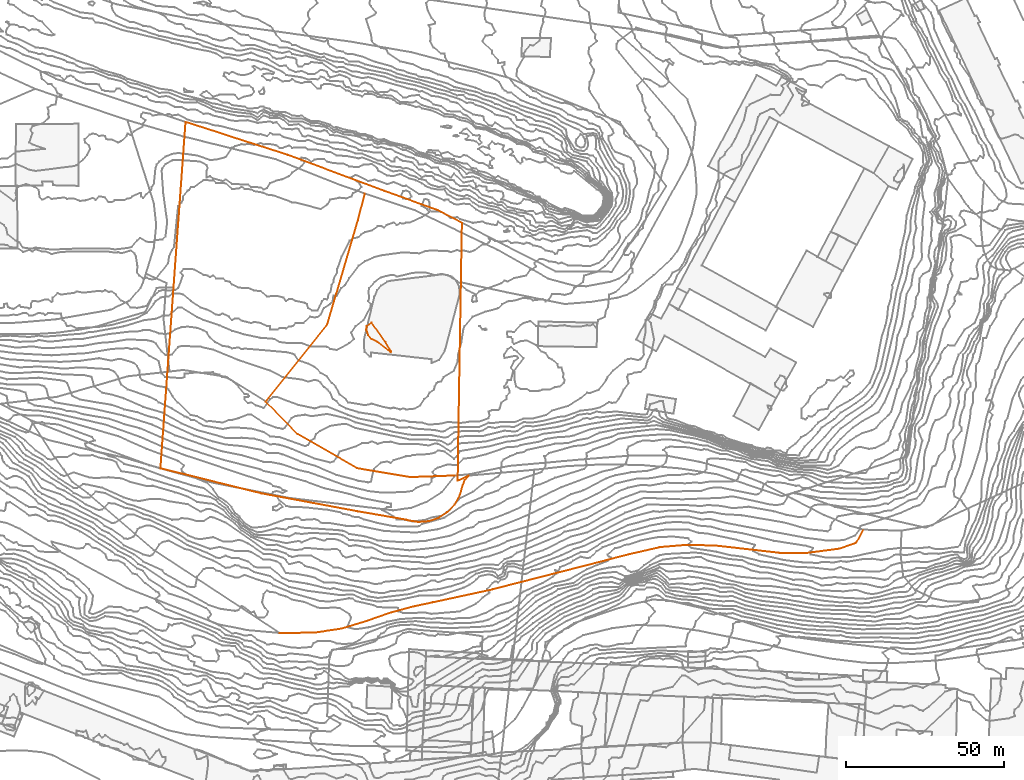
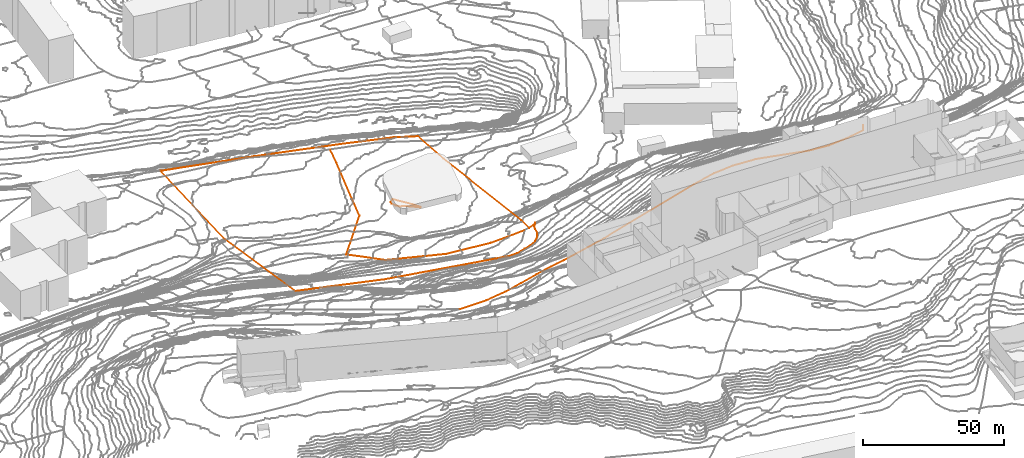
# Not in any storey, part 208 of 419: 5 proxies.
"""IFC2X3 model written with IfcOpenShell, lengths in metres."""

from ifc_helpers import new_model, entity, si_unit, frame, origin_with_axes, place, context, subcontext, project, element, save


model = new_model("IFC2X3")

# Units and contexts
model_context = context("Model", 3, precision=1e-05, world=origin_with_axes())
body_context = subcontext(model_context, "Body", "Model", "MODEL_VIEW")
ifc_project = project(units=[si_unit("AREAUNIT", "SQUARE_METRE"), si_unit("LENGTHUNIT", "METRE")], contexts=[model_context])

# Proxies
proxy_1_placement = place(None, frame((450.6920204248, 432.1976909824, 37.8), z_axis=(0.0, 0.0, 1.0), x_axis=(1.0, 0.0, 0.0)))
element("IfcBuildingElementProxy", 1, at=proxy_1_placement, Name="Route 165", ObjectType="NOTDEFINED", context=body_context, shape_type="GeometricCurveSet", body=[
    entity("IfcGeometricCurveSet", [entity("IfcPolyline", [entity("IfcCartesianPoint", [59.8, -23.3999999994, 3.8]), entity("IfcCartesianPoint", [45.6, -23.8999999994, 3.6]), entity("IfcCartesianPoint", [28.9, -21.0999999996, 2.9]), entity("IfcCartesianPoint", [10.1, -10.2999999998, 0.3]), entity("IfcCartesianPoint", [0.0, 0.0, 0.0])])]),
])
proxy_2_placement = place(None, frame((455.0920204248, 359.0976909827, 56.8), z_axis=(0.0, 0.0, 1.0), x_axis=(1.0, 0.0, 0.0)))
element("IfcBuildingElementProxy", 2, at=proxy_2_placement, Name="Route 190", ObjectType="NOTDEFINED", context=body_context, shape_type="GeometricCurveSet", body=[
    entity("IfcGeometricCurveSet", [entity("IfcPolyline", [entity("IfcCartesianPoint", [184.2, 32.5999999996, -3.9]), entity("IfcCartesianPoint", [182.0, 28.5, -3.3]), entity("IfcCartesianPoint", [176.6, 26.5999999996, -2.6]), entity("IfcCartesianPoint", [165.9, 25.2000000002, -2.3]), entity("IfcCartesianPoint", [157.8, 25.2999999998, -1.8]), entity("IfcCartesianPoint", [137.4, 27.5999999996, 0.3]), entity("IfcCartesianPoint", [128.2, 27.7999999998, 0.6]), entity("IfcCartesianPoint", [120.0, 27.0999999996, 0.6]), entity("IfcCartesianPoint", [110.5, 24.8999999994, 0.5]), entity("IfcCartesianPoint", [67.3, 13.7999999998, -1.0]), entity("IfcCartesianPoint", [48.4, 9.7000000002, -1.5]), entity("IfcCartesianPoint", [42.3, 8.3999999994, -1.3]), entity("IfcCartesianPoint", [35.2, 6.5, -1.1]), entity("IfcCartesianPoint", [27.4, 3.7999999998, -0.5]), entity("IfcCartesianPoint", [19.6, 1.3999999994, 0.0]), entity("IfcCartesianPoint", [11.0, 0.0999999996, 0.0]), entity("IfcCartesianPoint", [0.0, 0.0, 0.0])])]),
])
proxy_3_placement = place(None, frame((450.6920204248, 432.1976909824, 37.8), z_axis=(0.0, 0.0, 1.0), x_axis=(1.0, 0.0, 0.0)))
element("IfcBuildingElementProxy", 3, at=proxy_3_placement, Name="Route 321", ObjectType="NOTDEFINED", context=body_context, shape_type="GeometricCurveSet", body=[
    entity("IfcGeometricCurveSet", [entity("IfcPolyline", [entity("IfcCartesianPoint", [0.0, 0.0, 0.0]), entity("IfcCartesianPoint", [19.4, 24.2000000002, -4.7]), entity("IfcCartesianPoint", [29.1, 57.2000000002, -5.2]), entity("IfcCartesianPoint", [31.3, 65.6000000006, -5.2])])]),
])
proxy_4_placement = place(None, frame((417.4820204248, 411.0476909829, 46.3913805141), z_axis=(0.0, 0.0, 1.0), x_axis=(1.0, 0.0, 0.0)))
element("IfcBuildingElementProxy", 4, at=proxy_4_placement, Name="Cadastre 380", ObjectType="NOTDEFINED", context=body_context, shape_type="GeometricCurveSet", body=[
    entity("IfcGeometricCurveSet", [entity("IfcPolyline", [entity("IfcCartesianPoint", [95.16, 77.4699999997, -13.1618805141]), entity("IfcCartesianPoint", [94.84, 58.6799999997, -11.4386903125]), entity("IfcCartesianPoint", [93.88, 1.9799999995, -3.3363019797]), entity("IfcCartesianPoint", [93.85, -3.9100000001, -3.1646566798]), entity("IfcCartesianPoint", [97.29, -2.29, -3.0764772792]), entity("IfcCartesianPoint", [96.02, -3.7200000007, -3.1069538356]), entity("IfcCartesianPoint", [95.34, -5.46, -3.1231294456]), entity("IfcCartesianPoint", [94.4300000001, -8.6299999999, -2.4043559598]), entity("IfcCartesianPoint", [92.78, -11.4800000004, -1.90075227]), entity("IfcCartesianPoint", [90.5, -13.8600000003, -1.6271115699]), entity("IfcCartesianPoint", [87.71, -15.6200000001, -1.3077012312]), entity("IfcCartesianPoint", [84.59, -16.6600000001, -1.166300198]), entity("IfcCartesianPoint", [81.3100000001, -16.9100000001, -1.8718203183]), entity("IfcCartesianPoint", [78.04, -16.3700000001, -2.2818114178]), entity("IfcCartesianPoint", [77.46, -16.1900000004, -2.3100605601]), entity("IfcCartesianPoint", [62.38, -13.5700000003, -1.9714600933]), entity("IfcCartesianPoint", [31.99, -7.9000000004, -1.3554814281]), entity("IfcCartesianPoint", [0.0, 0.0, 0.0]), entity("IfcCartesianPoint", [4.14, 57.0299999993, -13.4916282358]), entity("IfcCartesianPoint", [7.9300000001, 109.3099999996, -16.9320291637]), entity("IfcCartesianPoint", [40.27, 98.9100000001, -15.662340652]), entity("IfcCartesianPoint", [70.74, 87.54, -13.8970810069]), entity("IfcCartesianPoint", [87.48, 81.4899999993, -13.3968996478]), entity("IfcCartesianPoint", [95.16, 77.4699999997, -13.1618805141])])]),
])
proxy_5_placement = place(None, frame((482.4670144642, 454.8976909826, 35.0), z_axis=(0.0, 0.0, 1.0), x_axis=(1.0, 0.0, 0.0)))
element("IfcBuildingElementProxy", 5, at=proxy_5_placement, Name="Contour 35.0 m", ObjectType="NOTDEFINED", context=body_context, shape_type="GeometricCurveSet", body=[
    entity("IfcGeometricCurveSet", [entity("IfcPolyline", [entity("IfcCartesianPoint", [7.6250059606, -7.1666454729, 0.0]), entity("IfcCartesianPoint", [7.874982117, -7.0, 0.0]), entity("IfcCartesianPoint", [6.0250212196, -4.0, 0.0]), entity("IfcCartesianPoint", [1.6250059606, 2.2222269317, 0.0]), entity("IfcCartesianPoint", [0.1250226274, 1.0, 0.0]), entity("IfcCartesianPoint", [0.0, 0.0, 0.0]), entity("IfcCartesianPoint", [0.6250059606, -1.7500238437, 0.0]), entity("IfcCartesianPoint", [1.6250059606, -2.9999800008, 0.0]), entity("IfcCartesianPoint", [3.6250059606, -3.999983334, 0.0]), entity("IfcCartesianPoint", [7.6250059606, -7.1666454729, 0.0])])]),
])

save(model, "model.ifc")
